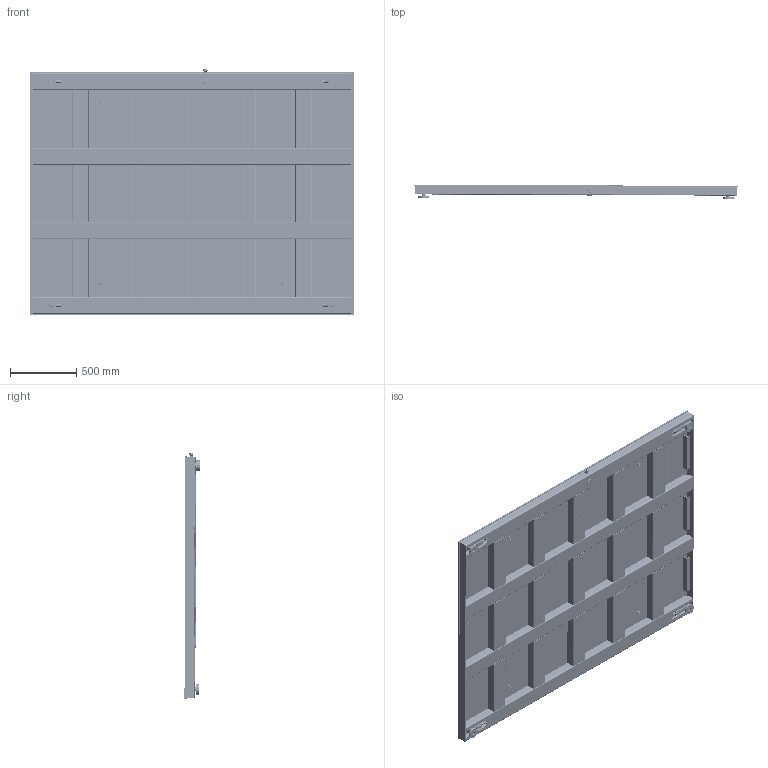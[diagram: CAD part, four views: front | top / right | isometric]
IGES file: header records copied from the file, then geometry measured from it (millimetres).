
Start section: SolidWorks IGES file using analytic representation for surfaces
Global section: file name: C:\0_Work\SolidWorks\~0_B-TEK Floor Scale\FS Series Floor Scales\HIFS-7296 Series.IGS; native system: SolidWorks 2017; preprocessor: SolidWorks 2017; author: vach01; date: 191017.085326; units: inch
Bounding box: 2438.43 x 114.69 x 1850.99 mm (x, y, z)
Surface area: 18434071.1 mm2 (no closed solid volume)
Topology: 0 solids, 0 shells, 20483 faces, 184809 edges, 184761 vertices
Faces by surface type: bspline 15696, revolution 4787
